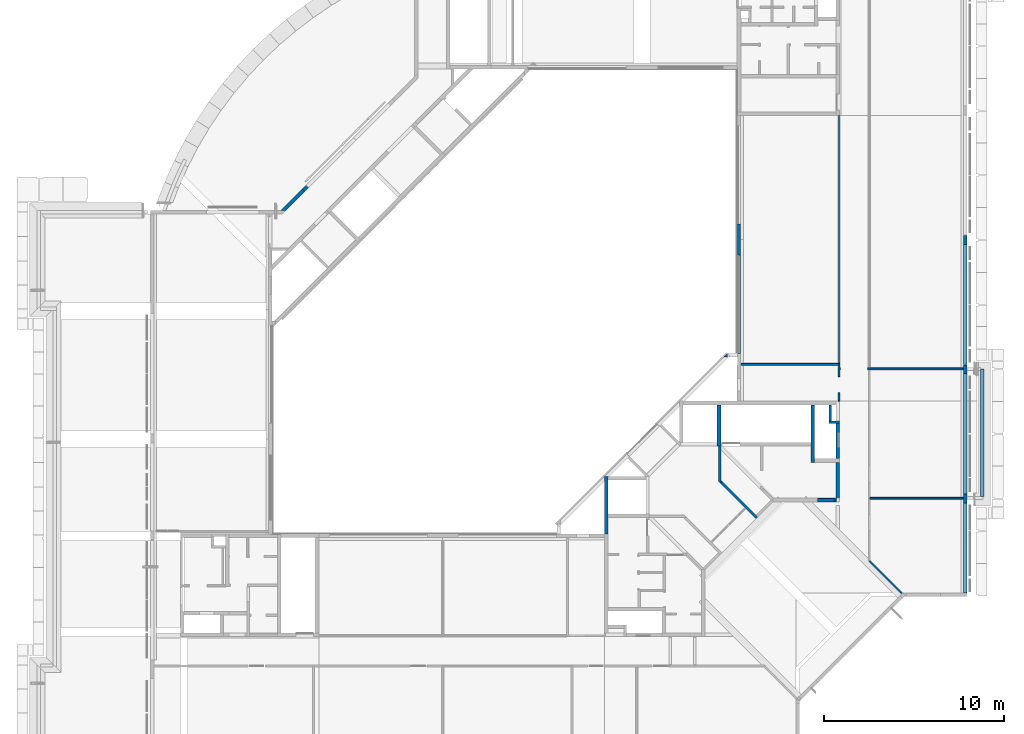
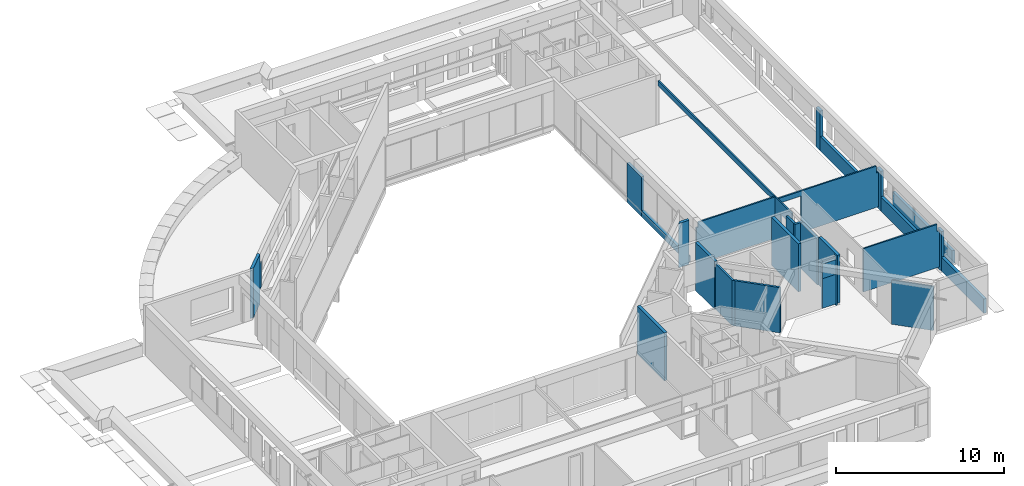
# One storey, part 13 of 38: 30 walls.
"""IFC4X3_ADD2 building model written with IfcOpenShell, lengths in millimetres."""

from ifc_helpers import new_model, si_unit, direction, frame, frame_2d, origin_with_axes, origin_2d_with_axis, place, context, subcontext, project, spatial, polyline, rectangle, outline, extrude, source, transform, mapped, material, type_object, type_shapes, element, save


model = new_model("IFC4X3_ADD2")

# Units and contexts
model_context = context("Model", 3, precision=1e-05, world=origin_with_axes(), true_north=direction((0.0, 1.0)))
body_context = subcontext(model_context, "Body", "Model", "MODEL_VIEW")
ifc_project = project(units=[si_unit("LENGTHUNIT", "METRE", prefix="MILLI"), si_unit("AREAUNIT", "SQUARE_METRE"), si_unit("VOLUMEUNIT", "CUBIC_METRE"), si_unit("PLANEANGLEUNIT", "RADIAN"), si_unit("TIMEUNIT", "SECOND"), si_unit("MASSUNIT", "GRAM")], contexts=[model_context])

# Site, building, storey
site_placement = place(None, origin_with_axes())
site = spatial("IfcSite", under=ifc_project, at=site_placement, Name="Site", CompositionType="ELEMENT")
building_placement = place(site_placement, origin_with_axes())
building = spatial("IfcBuilding", under=site, at=building_placement, Name="IFC Building Story")
storey_placement = place(building_placement, frame((0.0, 0.0, 10800.0), z_axis=(0.0, 0.0, 1.0), x_axis=(1.0, 0.0, 0.0)))
storey = spatial("IfcBuildingStorey", under=building, at=storey_placement, Name="030", Elevation=10800.0)

# Walls
ifc_material_1 = material(Name="BB_Beton_Bestaand")
wall_type_1 = type_object("IfcWallType", Name="BB_Beton_Bestaand 200", PredefinedType="NOTDEFINED", material=ifc_material_1)
wall_1_placement = place(storey_placement, origin_with_axes())
element("IfcWall", 1, at=wall_1_placement, inside=storey, type_object=wall_type_1, Name="Basic Wall:BB_XX_Wand uit beton, 200 mm", ObjectType="Basic Wall:BB_XX_Wand uit beton, 200 mm", PredefinedType="SOLIDWALL", context=body_context, shape_type="SweptSolid", body=[
    extrude(rectangle(XDim=3199.999999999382, YDim=200.0, at=frame_2d((0.0, 0.0), x_axis=(0.0, 1.0))), frame((-8500.0, 18300.00000000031, -80.0), z_axis=(0.0, 0.0, 1.0), x_axis=(1.0, 0.0, 0.0)), (0.0, 0.0, 1.0), 3480.0),
])
wall_2_placement = place(storey_placement, origin_with_axes())
element("IfcWall", 2, at=wall_2_placement, inside=storey, type_object=wall_type_1, Name="Basic Wall:BB_XX_Wand uit beton, 200 mm", ObjectType="Basic Wall:BB_XX_Wand uit beton, 200 mm", PredefinedType="SOLIDWALL", context=body_context, shape_type="SweptSolid", body=[
    extrude(rectangle(XDim=2199.999999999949, YDim=200.0, at=frame_2d((0.0, 0.0), x_axis=(0.0, 1.0))), frame((-7100.0, 15600.00000000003, -80.0), z_axis=(0.0, 0.0, 1.0), x_axis=(1.0, 0.0, 0.0)), (0.0, 0.0, 1.0), 3480.0),
])
wall_3_placement = place(storey_placement, origin_with_axes())
element("IfcWall", 3, at=wall_3_placement, inside=storey, type_object=wall_type_1, Name="Basic Wall:BB_XX_Wand uit beton, 200 mm", ObjectType="Basic Wall:BB_XX_Wand uit beton, 200 mm", PredefinedType="SOLIDWALL", context=body_context, shape_type="SweptSolid", body=[
    extrude(rectangle(XDim=2299.999999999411, YDim=199.9999999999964, at=frame_2d((0.0, 0.0), x_axis=(0.0, 1.0))), frame((-13715.0, 18749.99999999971, -80.0), z_axis=(0.0, 0.0, 1.0), x_axis=(1.0, 0.0, 0.0)), (0.0, 0.0, 1.0), 3480.0),
])
wall_4_placement = place(storey_placement, origin_with_axes())
element("IfcWall", 4, at=wall_4_placement, inside=storey, type_object=wall_type_1, Name="Basic Wall:BB_XX_Wand uit beton, 200 mm", ObjectType="Basic Wall:BB_XX_Wand uit beton, 200 mm", PredefinedType="SOLIDWALL", context=body_context, shape_type="SweptSolid", body=[
    extrude(rectangle(XDim=3214.995934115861, YDim=199.9999999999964, at=frame_2d((0.0, 0.0), x_axis=(0.0, 1.0))), frame((-20000.0, 14307.50203294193, -80.0), z_axis=(0.0, 0.0, 1.0), x_axis=(1.0, 0.0, 0.0)), (0.0, 0.0, 1.0), 3480.0),
])
wall_type_2 = type_object("IfcWallType", Name="BB_Beton_Bestaand 190", PredefinedType="NOTDEFINED", material=ifc_material_1)
wall_5_placement = place(storey_placement, origin_with_axes())
element("IfcWall", 5, at=wall_5_placement, inside=storey, type_object=wall_type_2, Name="Basic Wall:BB_XX_Wand uit beton, 190 mm", ObjectType="Basic Wall:BB_XX_Wand uit beton, 190 mm", PredefinedType="SOLIDWALL", context=body_context, shape_type="SweptSolid", body=[
    extrude(outline(polyline([(628.0961415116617, 493.7458530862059), (-426.5707088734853, -560.9209972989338), (-695.271285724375, -560.9209972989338), (493.7458530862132, 628.0961415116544), (628.0961415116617, 493.7458530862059)])), frame((-37414.07900269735, 31285.92099729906, -200.0), z_axis=(0.0, 0.0, 1.0), x_axis=(1.0, 0.0, 0.0)), (0.0, 0.0, 1.0), 3600.0),
])
wall_6_placement = place(storey_placement, origin_with_axes())
element("IfcWall", 6, at=wall_6_placement, inside=storey, type_object=wall_type_2, Name="Basic Wall:BB_XX_Wand uit beton, 190 mm", ObjectType="Basic Wall:BB_XX_Wand uit beton, 190 mm", PredefinedType="SOLIDWALL", context=body_context, shape_type="SweptSolid", body=[
    extrude(rectangle(XDim=489.9999999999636, YDim=190.0, at=frame_2d((0.0, 0.0), x_axis=(0.0, 1.0))), frame((0.0, 29080.00000000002, -200.0), z_axis=(0.0, 0.0, 1.0), x_axis=(1.0, 0.0, 0.0)), (0.0, 0.0, 1.0), 2880.0),
])
wall_7_placement = place(storey_placement, origin_with_axes())
element("IfcWall", 7, at=wall_7_placement, inside=storey, type_object=wall_type_2, Name="Basic Wall:BB_XX_Wand uit beton, 190 mm", ObjectType="Basic Wall:BB_XX_Wand uit beton, 190 mm", PredefinedType="SOLIDWALL", context=body_context, shape_type="SweptSolid", body=[
    extrude(rectangle(XDim=489.9999999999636, YDim=190.0, at=frame_2d((0.0, 0.0), x_axis=(0.0, 1.0))), frame((0.0, 21880.00000000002, -200.0), z_axis=(0.0, 0.0, 1.0), x_axis=(1.0, 0.0, 0.0)), (0.0, 0.0, 1.0), 2879.99999999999),
])
wall_8_placement = place(storey_placement, origin_with_axes())
element("IfcWall", 8, at=wall_8_placement, inside=storey, type_object=wall_type_2, Name="Basic Wall:BB_XX_Wand uit beton, 190 mm", ObjectType="Basic Wall:BB_XX_Wand uit beton, 190 mm", PredefinedType="SOLIDWALL", context=body_context, shape_type="SweptSolid", body=[
    extrude(rectangle(XDim=489.9999999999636, YDim=190.0, at=frame_2d((0.0, 0.0), x_axis=(0.0, 1.0))), frame((0.0, 14680.00000000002, -200.0), z_axis=(0.0, 0.0, 1.0), x_axis=(1.0, 0.0, 0.0)), (0.0, 0.0, 1.0), 2879.99999999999),
])
wall_9_placement = place(storey_placement, origin_with_axes())
element("IfcWall", 9, at=wall_9_placement, inside=storey, type_object=wall_type_2, Name="Basic Wall:BB_XX_Wand uit beton, 190 mm", ObjectType="Basic Wall:BB_XX_Wand uit beton, 190 mm", PredefinedType="SOLIDWALL", context=body_context, shape_type="SweptSolid", body=[
    extrude(rectangle(XDim=6709.999999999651, YDim=190.0, at=frame_2d((0.0, 0.0), x_axis=(0.0, 1.0))), frame((0.0, 25500.00000000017, -200.0), z_axis=(0.0, 0.0, 1.0), x_axis=(1.0, 0.0, 0.0)), (0.0, 0.0, 1.0), 1040.0),
])
wall_10_placement = place(storey_placement, origin_with_axes())
element("IfcWall", 10, at=wall_10_placement, inside=storey, type_object=wall_type_2, Name="Basic Wall:BB_XX_Wand uit beton, 190 mm", ObjectType="Basic Wall:BB_XX_Wand uit beton, 190 mm", PredefinedType="SOLIDWALL", context=body_context, shape_type="SweptSolid", body=[
    extrude(rectangle(XDim=6709.999999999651, YDim=190.0, at=frame_2d((0.0, 0.0), x_axis=(0.0, 1.0))), frame((0.0, 18300.00000000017, -200.0), z_axis=(0.0, 0.0, 1.0), x_axis=(1.0, 0.0, 0.0)), (0.0, 0.0, 1.0), 1040.0),
])
wall_11_placement = place(storey_placement, origin_with_axes())
element("IfcWall", 11, at=wall_11_placement, inside=storey, type_object=wall_type_2, Name="Basic Wall:BB_XX_Wand uit beton, 190 mm", ObjectType="Basic Wall:BB_XX_Wand uit beton, 190 mm", PredefinedType="SOLIDWALL", context=body_context, shape_type="SweptSolid", body=[
    extrude(rectangle(XDim=5040.000000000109, YDim=190.0, at=frame_2d((0.0, 0.0), x_axis=(0.0, 1.0))), frame((0.0, 11934.99999999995, -200.0), z_axis=(0.0, 0.0, 1.0), x_axis=(1.0, 0.0, 0.0)), (0.0, 0.0, 1.0), 1040.0),
])
wall_12_placement = place(storey_placement, origin_with_axes())
element("IfcWall", 12, at=wall_12_placement, inside=storey, type_object=wall_type_2, Name="Basic Wall:BB_XX_Wand uit beton, 190 mm", ObjectType="Basic Wall:BB_XX_Wand uit beton, 190 mm", PredefinedType="SOLIDWALL", context=body_context, shape_type="SweptSolid", body=[
    extrude(rectangle(XDim=1709.999999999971, YDim=190.0, at=frame_2d((0.0, 0.0), x_axis=(0.0, 1.0))), frame((-12600.0040658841, 29100.00000000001, -200.0), z_axis=(0.0, 0.0, 1.0), x_axis=(1.0, 0.0, 0.0)), (0.0, 0.0, 1.0), 2880.0),
])
wall_13_placement = place(storey_placement, origin_with_axes())
element("IfcWall", 13, at=wall_13_placement, inside=storey, type_object=wall_type_2, Name="Basic Wall:BB_XX_Wand uit beton, 190 mm", ObjectType="Basic Wall:BB_XX_Wand uit beton, 190 mm", PredefinedType="SOLIDWALL", context=body_context, shape_type="SweptSolid", body=[
    extrude(rectangle(XDim=7095.000000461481, YDim=190.0, at=frame_2d((0.0, 0.0), x_axis=(0.0, 1.0))), frame((935.0, 18342.49999976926, -200.0), z_axis=(0.0, 0.0, 1.0), x_axis=(1.0, 0.0, 0.0)), (0.0, 0.0, 1.0), 940.000000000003),
])
wall_14_placement = place(storey_placement, origin_with_axes())
element("IfcWall", 14, at=wall_14_placement, inside=storey, type_object=wall_type_2, Name="Basic Wall:BB_XX_Wand uit beton, 190 mm", ObjectType="Basic Wall:BB_XX_Wand uit beton, 190 mm", PredefinedType="SOLIDWALL", context=body_context, shape_type="SweptSolid", body=[
    extrude(rectangle(XDim=5490.000000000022, YDim=190.0, at=frame_2d((0.0, 0.0), x_axis=(0.0, 1.0))), frame((-12600.0040658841, 25500.00000000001, -200.0), z_axis=(0.0, 0.0, 1.0), x_axis=(1.0, 0.0, 0.0)), (0.0, 0.0, 1.0), 450.000000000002),
])
ifc_material_2 = material(Name="BB_Metselwerk_Bestaand")
wall_type_3 = type_object("IfcWallType", Name="BB_Metselwerk_Bestaand 140", PredefinedType="NOTDEFINED", material=ifc_material_2)
wall_15_placement = place(storey_placement, origin_with_axes())
element("IfcWall", 15, at=wall_15_placement, inside=storey, type_object=wall_type_3, Name="Basic Wall:BB_XX_Wand uit metselwerk, 140 mm", ObjectType="Basic Wall:BB_XX_Wand uit metselwerk, 140 mm", PredefinedType="SOLIDWALL", context=body_context, shape_type="SweptSolid", body=[
    extrude(rectangle(XDim=589.9999999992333, YDim=140.0, at=origin_2d_with_axis()), frame((-7294.999999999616, 18930.0, -200.0), z_axis=(0.0, 0.0, 1.0), x_axis=(1.0, 0.0, 0.0)), (0.0, 0.0, 1.0), 3340.0),
])
wall_16_placement = place(storey_placement, origin_with_axes())
element("IfcWall", 16, at=wall_16_placement, inside=storey, type_object=wall_type_3, Name="Basic Wall:BB_XX_Wand uit metselwerk, 140 mm", ObjectType="Basic Wall:BB_XX_Wand uit metselwerk, 140 mm", PredefinedType="SOLIDWALL", context=body_context, shape_type="SweptSolid", body=[
    extrude(rectangle(XDim=899.9999999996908, YDim=140.0, at=frame_2d((0.0, 0.0), x_axis=(0.0, 1.0))), frame((-7520.0, 19449.99999999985, -200.0), z_axis=(0.0, 0.0, 1.0), x_axis=(1.0, 0.0, 0.0)), (0.0, 0.0, 1.0), 3340.0),
])
wall_type_4 = type_object("IfcWallType", Name="BB_Metselwerk_Bestaand 190", PredefinedType="NOTDEFINED", material=ifc_material_2)
wall_17_placement = place(storey_placement, origin_with_axes())
element("IfcWall", 17, at=wall_17_placement, inside=storey, type_object=wall_type_4, Name="Basic Wall:BB_XX_Wand uit metselwerk, 190 mm", ObjectType="Basic Wall:BB_XX_Wand uit metselwerk, 190 mm", PredefinedType="SOLIDWALL", context=body_context, shape_type="SweptSolid", body=[
    extrude(rectangle(XDim=1959.99999999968, YDim=190.0, at=frame_2d((0.0, 0.0), x_axis=(0.0, 1.0))), frame((-7095.0, 17879.99999999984, -200.0), z_axis=(0.0, 0.0, 1.0), x_axis=(1.0, 0.0, 0.0)), (0.0, 0.0, 1.0), 3340.0),
])
ifc_material_3 = material(Name="BB_Metselwerk_Betonsteen")
wall_type_5 = type_object("IfcWallType", Name="BB_Metselwerk_Betonsteen 190", PredefinedType="NOTDEFINED", material=ifc_material_3)
wall_18_placement = place(storey_placement, origin_with_axes())
element("IfcWall", 18, at=wall_18_placement, inside=storey, type_object=wall_type_5, Name="Basic Wall:BB_03.09.24#03_Wand uit metselwerk, 190 mm", ObjectType="Basic Wall:BB_03.09.24#03_Wand uit metselwerk, 190 mm", PredefinedType="SOLIDWALL", context=body_context, shape_type="SweptSolid", body=[
    extrude(rectangle(XDim=305.0000000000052, YDim=190.0000000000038, at=frame_2d((0.0, 0.0), x_axis=(0.7071067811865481, 0.7071067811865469))), frame((-36745.32422126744, 31954.67577872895, 840.0), z_axis=(0.0, 0.0, 1.0), x_axis=(1.0, 0.0, 0.0)), (0.0, 0.0, 1.0), 1840.0),
])
wall_19_placement = place(storey_placement, origin_with_axes())
element("IfcWall", 19, at=wall_19_placement, inside=storey, type_object=wall_type_5, Name="Basic Wall:BB_03.09.24#05_Wand uit metselwerk_EI60, 190 mm", ObjectType="Basic Wall:BB_03.09.24#05_Wand uit metselwerk_EI60, 190 mm", PredefinedType="SOLIDWALL", context=body_context, shape_type="SweptSolid", body=[
    extrude(rectangle(XDim=920.0, YDim=190.0, at=origin_2d_with_axis()), frame((-7760.0, 14595.0, -80.0), z_axis=(0.0, 0.0, 1.0), x_axis=(1.0, 0.0, 0.0)), (0.0, 0.0, 1.0), 2150.0),
])
wall_20_placement = place(storey_placement, origin_with_axes())
element("IfcWall", 20, at=wall_20_placement, inside=storey, type_object=wall_type_5, Name="Basic Wall:BB_03.09.24#03_Wand uit metselwerk, 190 mm", ObjectType="Basic Wall:BB_03.09.24#03_Wand uit metselwerk, 190 mm", PredefinedType="SOLIDWALL", context=body_context, shape_type="SweptSolid", body=[
    extrude(outline(polyline([(-229.8221358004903, 95.0), (324.8221358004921, 95.0), (324.8221358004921, -95.0), (-419.8221358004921, -95.0), (-229.8221358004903, 95.0)])), frame((-13019.82620168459, 22660.0, -200.0), z_axis=(0.0, 0.0, 1.0), x_axis=(1.0, 0.0, 0.0)), (0.0, 0.0, 1.0), 3200.0),
])
wall_type_6 = type_object("IfcWallType", Name="Basic Wall_BB_10.01.41#21_Gipskartonwand_EI60_43dB_MS100 _ 25.50.25_ 100 mm71", PredefinedType="NOTDEFINED")
shared_shape_1 = source(origin_with_axes(), body_context, "Body", "SweptSolid", [
    extrude(outline(polyline([(3618.33604392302, 1883.333333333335), (3618.33604392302, -1121.666666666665), (-1741.66802196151, -1121.666666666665), (-1741.66802196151, -761.6666666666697), (-1876.66802196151, -761.6666666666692), (-1876.66802196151, 1883.333333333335), (3618.33604392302, 1883.333333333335)])), frame((1876.66802196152, 37.5, 1883.33333333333), z_axis=(0.0, 1.0, 0.0), x_axis=(1.0, 0.0, 0.0)), (0.0, 0.0, 1.0), 12.5),
    extrude(outline(polyline([(-1872.501355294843, 1883.333333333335), (3610.002710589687, 1883.333333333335), (3610.002710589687, -1121.666666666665), (-1737.501355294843, -1121.666666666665), (-1737.501355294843, -761.6666666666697), (-1872.501355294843, -761.6666666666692), (-1872.501355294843, 1883.333333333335)])), frame((1872.501355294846, 25.0, 1883.333333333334), z_axis=(0.0, 1.0, 0.0), x_axis=(1.0, 0.0, 0.0)), (0.0, 0.0, 1.0), 12.5),
    extrude(outline(polyline([(-1865.001355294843, 1883.333333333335), (3605.002710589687, 1883.333333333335), (3605.002710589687, -1121.666666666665), (-1740.001355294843, -1121.666666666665), (-1740.001355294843, -761.6666666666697), (-1865.001355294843, -761.6666666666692), (-1865.001355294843, 1883.333333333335)])), frame((1865.001355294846, -25.0, 1883.333333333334), z_axis=(0.0, 1.0, 0.0), x_axis=(1.0, 0.0, 0.0)), (0.0, 0.0, 1.0), 49.99999999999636),
    extrude(outline(polyline([(-1851.66802196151, 1883.333333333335), (3568.33604392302, 1883.333333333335), (3568.33604392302, -1121.666666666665), (-1716.66802196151, -1121.666666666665), (-1716.66802196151, -761.6666666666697), (-1851.66802196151, -761.6666666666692), (-1851.66802196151, 1883.333333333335)])), frame((1851.668021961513, -37.5, 1883.333333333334), z_axis=(0.0, 1.0, 0.0), x_axis=(1.0, 0.0, 0.0)), (0.0, 0.0, 1.0), 12.5),
    extrude(outline(polyline([(-1847.501355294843, 1883.333333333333), (3560.002710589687, 1883.333333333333), (3560.002710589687, -1121.666666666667), (-1712.501355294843, -1121.666666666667), (-1712.501355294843, -761.6666666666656), (-1847.501355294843, -761.6666666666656), (-1847.501355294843, 1883.333333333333)])), frame((1847.501355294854, -50.0, 1883.333333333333), z_axis=(0.0, 1.0, 0.0), x_axis=(1.0, 0.0, 0.0)), (0.0, 0.0, 1.0), 12.49999999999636),
])
type_shapes(wall_type_6, [shared_shape_1])
wall_21_placement = place(storey_placement, frame((-12480.0040658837, 22150.0, -5.0), z_axis=(0.0, 0.0, 1.0), x_axis=(1.0, 0.0, 0.0)))
element("IfcWall", 21, at=wall_21_placement, inside=storey, type_object=wall_type_6, Name="Basic Wall:BB_10.01.41#21_Gipskartonwand_EI60_43dB_MS100 / 25.50.25, 100 mm", ObjectType="Basic Wall:BB_10.01.41#21_Gipskartonwand_EI60_43dB_MS100 / 25.50.25, 100 mm", PredefinedType="PARTITIONING", context=body_context, shape_type="MappedRepresentation", body=[
    mapped(shared_shape_1, transform((0.0, 0.0, 0.0))),
])
wall_type_7 = type_object("IfcWallType", Name="Basic Wall_BB_10.01.41#21_Gipskartonwand_EI60_43dB_MS100 _ 25.50.25_ 100 mm73", PredefinedType="NOTDEFINED")
shared_shape_2 = source(origin_with_axes(), body_context, "Body", "SweptSolid", [
    extrude(outline(polyline([(506.8749999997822, -872.500000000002), (506.8749999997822, 1292.500000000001), (981.8750000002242, 1292.500000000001), (981.8750000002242, -1712.499999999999), (-1105.624999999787, -1712.499999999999), (-1105.624999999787, 1292.500000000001), (-383.1250000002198, 1292.500000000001), (-383.1250000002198, -872.500000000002), (506.8749999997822, -872.500000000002)])), frame((1018.124999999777, 37.4999999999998, 1292.500000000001), z_axis=(0.0, 1.0, 0.0), x_axis=(1.0, 0.0, 0.0)), (0.0, 0.0, 1.0), 12.4999999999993),
    extrude(outline(polyline([(503.7499999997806, -872.500000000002), (503.7499999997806, 1292.500000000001), (978.7500000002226, 1292.500000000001), (978.7500000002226, -1712.499999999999), (-1096.249999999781, -1712.499999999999), (-1096.249999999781, 1292.500000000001), (-386.2500000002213, 1292.500000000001), (-386.2500000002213, -872.500000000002), (503.7499999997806, -872.500000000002)])), frame((1021.249999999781, 25.0, 1292.500000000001), z_axis=(0.0, 1.0, 0.0), x_axis=(1.0, 0.0, 0.0)), (0.0, 0.0, 1.0), 12.5000000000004),
    extrude(outline(polyline([(491.2499999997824, -872.500000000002), (491.2499999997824, 1292.500000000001), (966.2500000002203, 1292.500000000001), (966.2500000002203, -1712.499999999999), (-1058.749999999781, -1712.499999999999), (-1058.749999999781, 1292.500000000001), (-398.7500000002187, 1292.500000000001), (-398.7500000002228, -872.500000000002), (491.2499999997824, -872.500000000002)])), frame((1033.749999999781, -25.0, 1292.500000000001), z_axis=(0.0, 1.0, 0.0), x_axis=(1.0, 0.0, 0.0)), (0.0, 0.0, 1.0), 49.9999999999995),
    extrude(outline(polyline([(488.124999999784, -872.500000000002), (488.124999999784, 1292.500000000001), (963.125000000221, 1292.500000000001), (963.125000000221, -1712.499999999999), (-1049.374999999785, -1712.499999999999), (-1049.374999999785, 1292.500000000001), (-401.8750000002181, 1292.500000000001), (-401.8750000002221, -872.500000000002), (488.124999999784, -872.500000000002)])), frame((1036.874999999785, -37.5000000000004, 1292.500000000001), z_axis=(0.0, 1.0, 0.0), x_axis=(1.0, 0.0, 0.0)), (0.0, 0.0, 1.0), 12.5000000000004),
    extrude(outline(polyline([(960.0000000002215, 1292.500000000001), (960.0000000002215, -1712.499999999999), (-1039.999999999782, -1712.499999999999), (-1039.999999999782, 1292.500000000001), (-405.0000000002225, 1292.5), (-405.0000000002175, -872.500000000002), (484.9999999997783, -872.500000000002), (484.9999999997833, 1292.500000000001), (960.0000000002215, 1292.500000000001)])), frame((1040.000000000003, -50.0, 1292.500000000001), z_axis=(0.0, 1.0, 0.0), x_axis=(1.0, 0.0, 0.0)), (0.0, 0.0, 1.0), 12.5000000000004),
])
type_shapes(wall_type_7, [shared_shape_2])
wall_22_placement = place(storey_placement, frame((-7035.0, 22100.0, -5.0), z_axis=(0.0, 0.0, 1.0), x_axis=(0.0, -1.0, 0.0)))
element("IfcWall", 22, at=wall_22_placement, inside=storey, type_object=wall_type_7, Name="Basic Wall:BB_10.01.41#21_Gipskartonwand_EI60_43dB_MS100 / 25.50.25, 100 mm", ObjectType="Basic Wall:BB_10.01.41#21_Gipskartonwand_EI60_43dB_MS100 / 25.50.25, 100 mm", PredefinedType="PARTITIONING", context=body_context, shape_type="MappedRepresentation", body=[
    mapped(shared_shape_2, transform((0.0, 0.0, 0.0))),
])
wall_type_8 = type_object("IfcWallType", Name="Basic Wall_BB_10.01.41#03_Gipskartonwand_43dB_MS100 _ 25.50.25_ 100 mm65", PredefinedType="NOTDEFINED")
shared_shape_3 = source(origin_with_axes(), body_context, "Body", "SweptSolid", [
    extrude(outline(polyline([(-1287.52516024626, 6.250000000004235), (1281.27516024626, 6.249999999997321), (1293.77516024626, -6.250000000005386), (-1287.52516024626, -6.249999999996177), (-1287.52516024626, 6.250000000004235)])), frame((1287.52516024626, 43.75000000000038, 0.0), z_axis=(0.0, 0.0, 1.0), x_axis=(1.0, 0.0, 0.0)), (0.0, 0.0, 1.0), 3200.0),
    extrude(outline(polyline([(-1284.93632548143, -6.250000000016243), (-1284.93632548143, 6.249999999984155), (1278.68632548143, 6.250000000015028), (1291.18632548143, -6.249999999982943), (-1284.93632548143, -6.250000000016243)])), frame((1284.93632548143, 31.24999999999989, 0.0), z_axis=(0.0, 0.0, 1.0), x_axis=(1.0, 0.0, 0.0)), (0.0, 0.0, 1.0), 3200.0),
    extrude(outline(polyline([(-1265.205986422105, -25.0000000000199), (-1265.205986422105, 24.9999999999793), (1240.205986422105, 25.0000000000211), (1290.205986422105, -24.9999999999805), (-1265.205986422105, -25.0000000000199)])), frame((1265.205986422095, 0.0, 0.0), z_axis=(0.0, 0.0, 1.0), x_axis=(1.0, 0.0, 0.0)), (0.0, 0.0, 1.0), 3200.0),
    extrude(outline(polyline([(-1271.99215165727, -6.249999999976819), (-1271.99215165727, 6.250000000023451), (1265.74215165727, 6.249999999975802), (1278.24215165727, -6.250000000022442), (-1271.99215165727, -6.249999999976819)])), frame((1271.99215165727, -31.25000000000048, 0.0), z_axis=(0.0, 0.0, 1.0), x_axis=(1.0, 0.0, 0.0)), (0.0, 0.0, 1.0), 3200.0),
    extrude(outline(polyline([(1275.653316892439, -6.250000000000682), (-1269.40331689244, -6.249999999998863), (-1269.40331689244, 6.25), (1263.153316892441, 6.249999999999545), (1275.653316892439, -6.250000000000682)])), frame((1269.40331689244, -43.74999999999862, 0.0), z_axis=(0.0, 0.0, 1.0), x_axis=(1.0, 0.0, 0.0)), (0.0, 0.0, 1.0), 3200.0),
])
type_shapes(wall_type_8, [shared_shape_3])
wall_23_placement = place(storey_placement, frame((-3535.72853480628, 9397.32233046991, -200.0), z_axis=(0.0, 0.0, 1.0), x_axis=(-0.7071067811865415, 0.7071067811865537, 0.0)))
element("IfcWall", 23, at=wall_23_placement, inside=storey, type_object=wall_type_8, Name="Basic Wall:BB_10.01.41#03_Gipskartonwand_43dB_MS100 / 25.50.25, 100 mm", ObjectType="Basic Wall:BB_10.01.41#03_Gipskartonwand_43dB_MS100 / 25.50.25, 100 mm", PredefinedType="PARTITIONING", context=body_context, shape_type="MappedRepresentation", body=[
    mapped(shared_shape_3, transform((0.0, 0.0, 0.0))),
])
wall_type_9 = type_object("IfcWallType", Name="Basic Wall_BB_10.01.41#03_Gipskartonwand_43dB_MS100 _ 25.50.25_ 100 mm77", PredefinedType="NOTDEFINED")
shared_shape_4 = source(origin_with_axes(), body_context, "Body", "SweptSolid", [
    extrude(outline(polyline([(-1480.999999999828, -1014.0), (-1480.999999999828, 1626.0), (3833.999999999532, 1626.0), (3833.999999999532, -864.0), (3678.999999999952, -864.0), (3678.999999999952, -1374.0), (-3030.999999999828, -1374.0), (-3030.999999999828, 1626.0), (-3000.999999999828, 1626.0), (-3000.999999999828, -1014.0), (-1480.999999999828, -1014.0)])), frame((3030.999999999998, 37.5, 1626.0), z_axis=(0.0, 1.0, 0.0), x_axis=(1.0, 0.0, 0.0)), (0.0, 0.0, 1.0), 12.49999999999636),
    extrude(outline(polyline([(-1478.49999999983, -1014.0), (-1478.49999999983, 1626.0), (3836.499999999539, 1626.0), (3836.499999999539, -864.0), (3681.49999999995, -864.0), (3681.49999999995, -1374.0), (-3040.99999999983, -1374.0), (-3040.99999999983, 1626.0), (-2998.49999999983, 1626.0), (-2998.49999999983, -1014.0), (-1478.49999999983, -1014.0)])), frame((3028.49999999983, 25.0, 1626.0), z_axis=(0.0, 1.0, 0.0), x_axis=(1.0, 0.0, 0.0)), (0.0, 0.0, 1.0), 12.5),
    extrude(outline(polyline([(-1475.99999999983, -1014.0), (-1475.99999999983, 1626.0), (3838.99999999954, 1626.0), (3838.99999999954, -864.0), (3683.99999999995, -864.0), (3683.99999999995, -1374.0), (-3050.99999999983, -1374.0), (-3050.99999999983, 1626.0), (-2995.99999999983, 1626.0), (-2995.99999999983, -1014.0), (-1475.99999999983, -1014.0)])), frame((3026.0, -25.0, 1626.0), z_axis=(0.0, 1.0, 0.0), x_axis=(1.0, 0.0, 0.0)), (0.0, 0.0, 1.0), 49.99999999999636),
    extrude(outline(polyline([(-1480.999999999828, -1014.0), (-1480.999999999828, 1626.0), (3833.999999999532, 1626.0), (3833.999999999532, -864.0), (3678.999999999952, -864.0), (3678.999999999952, -1374.0), (-3030.999999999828, -1374.0), (-3030.999999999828, 1626.0), (-3000.999999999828, 1626.0), (-3000.999999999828, -1014.0), (-1480.999999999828, -1014.0)])), frame((3031.0, -37.5, 1626.0), z_axis=(0.0, 1.0, 0.0), x_axis=(1.0, 0.0, 0.0)), (0.0, 0.0, 1.0), 12.5),
    extrude(outline(polyline([(3833.999999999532, 1626.0), (3833.999999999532, -864.0), (3678.999999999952, -864.0), (3678.999999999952, -1374.0), (-3030.999999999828, -1374.0), (-3030.999999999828, 1626.0), (-3000.999999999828, 1626.0), (-3000.999999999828, -1014.0), (-1480.999999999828, -1014.0), (-1480.999999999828, 1626.0), (3833.999999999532, 1626.0)])), frame((3030.999999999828, -50.0, 1626.0), z_axis=(0.0, 1.0, 0.0), x_axis=(1.0, 0.0, 0.0)), (0.0, 0.0, 1.0), 12.5),
])
type_shapes(wall_type_9, [shared_shape_4])
wall_24_placement = place(storey_placement, frame((-6985.0, 21900.0, 0.0), z_axis=(0.0, 0.0, 1.0), x_axis=(1.0, 0.0, 0.0)))
element("IfcWall", 24, at=wall_24_placement, inside=storey, type_object=wall_type_9, Name="Basic Wall:BB_10.01.41#03_Gipskartonwand_43dB_MS100 / 25.50.25, 100 mm", ObjectType="Basic Wall:BB_10.01.41#03_Gipskartonwand_43dB_MS100 / 25.50.25, 100 mm", PredefinedType="PARTITIONING", context=body_context, shape_type="MappedRepresentation", body=[
    mapped(shared_shape_4, transform((0.0, 0.0, 0.0))),
])
wall_type_10 = type_object("IfcWallType", Name="Basic Wall_BB_10.01.41#03_Gipskartonwand_43dB_MS100 _ 25.50.25_ 100 mm81", PredefinedType="NOTDEFINED")
shared_shape_5 = source(origin_with_axes(), body_context, "Body", "SweptSolid", [
    extrude(outline(polyline([(-3401.66666666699, 1923.333333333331), (1778.33333333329, 1923.333333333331), (1778.33333333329, -706.6666666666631), (1623.3333333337, -706.6666666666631), (1623.3333333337, -1216.666666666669), (-3401.66666666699, -1216.666666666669), (-3401.66666666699, 1923.333333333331)])), frame((3401.66666666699, 37.49999999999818, 1923.333333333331), z_axis=(0.0, 1.0, 0.0), x_axis=(1.0, 0.0, 0.0)), (0.0, 0.0, 1.0), 12.5),
    extrude(outline(polyline([(-3401.66666666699, 1923.333333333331), (1778.33333333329, 1923.333333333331), (1778.33333333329, -706.6666666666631), (1623.3333333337, -706.6666666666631), (1623.3333333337, -1216.666666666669), (-3401.66666666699, -1216.666666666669), (-3401.66666666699, 1923.333333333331)])), frame((3401.66666666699, 25.0, 1923.333333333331), z_axis=(0.0, 1.0, 0.0), x_axis=(1.0, 0.0, 0.0)), (0.0, 0.0, 1.0), 12.5),
    extrude(outline(polyline([(-3418.333333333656, 1923.333333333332), (1786.666666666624, 1923.333333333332), (1786.666666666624, -706.6666666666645), (1631.666666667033, -706.6666666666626), (1631.666666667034, -1216.666666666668), (-3418.333333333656, -1216.666666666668), (-3418.333333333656, 1923.333333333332)])), frame((3393.333333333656, -25.0, 1923.333333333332), z_axis=(0.0, 1.0, 0.0), x_axis=(1.0, 0.0, 0.0)), (0.0, 0.0, 1.0), 50.00000000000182),
    extrude(outline(polyline([(-3410.000000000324, 1923.333333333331), (1782.499999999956, 1923.333333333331), (1782.499999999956, -706.6666666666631), (1627.500000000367, -706.6666666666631), (1627.500000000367, -1216.666666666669), (-3410.000000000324, -1216.666666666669), (-3410.000000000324, 1923.333333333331)])), frame((3397.500000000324, -37.50000000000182, 1923.333333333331), z_axis=(0.0, 1.0, 0.0), x_axis=(1.0, 0.0, 0.0)), (0.0, 0.0, 1.0), 12.5),
    extrude(outline(polyline([(-3401.66666666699, 1923.333333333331), (1778.33333333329, 1923.333333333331), (1778.33333333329, -706.6666666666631), (1623.3333333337, -706.6666666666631), (1623.3333333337, -1216.666666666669), (-3401.66666666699, -1216.666666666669), (-3401.66666666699, 1923.333333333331)])), frame((3401.66666666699, -50.0, 1923.333333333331), z_axis=(0.0, 1.0, 0.0), x_axis=(1.0, 0.0, 0.0)), (0.0, 0.0, 1.0), 12.5),
])
type_shapes(wall_type_10, [shared_shape_5])
wall_25_placement = place(storey_placement, frame((-5300.0, 14700.0, 0.0), z_axis=(0.0, 0.0, 1.0), x_axis=(1.0, 0.0, 0.0)))
element("IfcWall", 25, at=wall_25_placement, inside=storey, type_object=wall_type_10, Name="Basic Wall:BB_10.01.41#03_Gipskartonwand_43dB_MS100 / 25.50.25, 100 mm", ObjectType="Basic Wall:BB_10.01.41#03_Gipskartonwand_43dB_MS100 / 25.50.25, 100 mm", PredefinedType="PARTITIONING", context=body_context, shape_type="MappedRepresentation", body=[
    mapped(shared_shape_5, transform((0.0, 0.0, 0.0))),
])
wall_type_11 = type_object("IfcWallType", Name="Basic Wall_BB_10.01.41#21_Gipskartonwand_EI60_43dB_MS100 _ 25.50.25_ 100 mm83", PredefinedType="NOTDEFINED")
shared_shape_6 = source(origin_with_axes(), body_context, "Body", "SweptSolid", [
    extrude(rectangle(XDim=13800.00000000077, YDim=12.49999999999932, at=origin_2d_with_axis()), frame((6900.0, 43.7499999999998, 0.0), z_axis=(0.0, 0.0, 1.0), x_axis=(1.0, 0.0, 0.0)), (0.0, 0.0, 1.0), 360.0),
    extrude(rectangle(XDim=13800.00000000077, YDim=12.5000000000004, at=origin_2d_with_axis()), frame((6899.999999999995, 31.2500000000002, 0.0), z_axis=(0.0, 0.0, 1.0), x_axis=(1.0, 0.0, 0.0)), (0.0, 0.0, 1.0), 360.0),
    extrude(rectangle(XDim=13800.00000000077, YDim=49.9999999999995, at=origin_2d_with_axis()), frame((6900.0, 0.0, 0.0), z_axis=(0.0, 0.0, 1.0), x_axis=(1.0, 0.0, 0.0)), (0.0, 0.0, 1.0), 360.0),
    extrude(rectangle(XDim=13800.00000000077, YDim=12.5000000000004, at=origin_2d_with_axis()), frame((6900.000000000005, -31.2499999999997, 0.0), z_axis=(0.0, 0.0, 1.0), x_axis=(1.0, 0.0, 0.0)), (0.0, 0.0, 1.0), 360.0),
    extrude(rectangle(XDim=13800.00000000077, YDim=12.50000000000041, at=origin_2d_with_axis()), frame((6900.0, -43.75000000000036, 0.0), z_axis=(0.0, 0.0, 1.0), x_axis=(1.0, 0.0, 0.0)), (0.0, 0.0, 1.0), 360.0),
])
type_shapes(wall_type_11, [shared_shape_6])
wall_26_placement = place(storey_placement, frame((-7035.0, 36000.0, 2640.0), z_axis=(0.0, 0.0, 1.0), x_axis=(0.0, -1.0, 0.0)))
element("IfcWall", 26, at=wall_26_placement, inside=storey, type_object=wall_type_11, Name="Basic Wall:BB_10.01.41#21_Gipskartonwand_EI60_43dB_MS100 / 25.50.25, 100 mm", ObjectType="Basic Wall:BB_10.01.41#21_Gipskartonwand_EI60_43dB_MS100 / 25.50.25, 100 mm", PredefinedType="PARTITIONING", context=body_context, shape_type="MappedRepresentation", body=[
    mapped(shared_shape_6, transform((0.0, 0.0, 0.0))),
])
wall_type_12 = type_object("IfcWallType", Name="BB_Metselwerk_Bestaand 200", PredefinedType="NOTDEFINED", material=ifc_material_2)
wall_27_placement = place(storey_placement, origin_with_axes())
element("IfcWall", 27, at=wall_27_placement, inside=storey, type_object=wall_type_12, Name="Basic Wall:BB_XX_Wand uit metselwerk, 200 mm", ObjectType="Basic Wall:BB_XX_Wand uit metselwerk, 200 mm", PredefinedType="SOLIDWALL", context=body_context, shape_type="SweptSolid", body=[
    extrude(rectangle(XDim=909.9999999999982, YDim=199.9999999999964, at=origin_2d_with_axis()), frame((-7754.999999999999, 14600.0, 2070.0), z_axis=(0.0, 0.0, 1.0), x_axis=(1.0, 0.0, 0.0)), (0.0, 0.0, 1.0), 1067.0),
])
wall_type_13 = type_object("IfcWallType", Name="BB_Metselwerk_Betonsteen 140", PredefinedType="NOTDEFINED", material=ifc_material_3)
wall_28_placement = place(storey_placement, origin_with_axes())
element("IfcWall", 28, at=wall_28_placement, inside=storey, type_object=wall_type_13, Name="Basic Wall:BB_03.09.24#02_Wand uit metselwerk_EI60_43dB, 140 mm", ObjectType="Basic Wall:BB_03.09.24#02_Wand uit metselwerk_EI60_43dB, 140 mm", PredefinedType="SOLIDWALL", context=body_context, shape_type="SweptSolid", body=[
    extrude(outline(polyline([(-70.0, -939.9769132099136), (-70.00000000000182, 1009.976913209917), (70.0, 1009.976913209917), (70.0, -1079.976913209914), (-70.0, -939.9769132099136)])), frame((-13685.0, 16590.02308679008, -80.0), z_axis=(0.0, 0.0, 1.0), x_axis=(1.0, 0.0, 0.0)), (0.0, 0.0, 1.0), 3280.0),
])
wall_29_placement = place(storey_placement, origin_with_axes())
element("IfcWall", 29, at=wall_29_placement, inside=storey, type_object=wall_type_13, Name="Basic Wall:BB_03.09.24#02_Wand uit metselwerk_EI60_43dB, 140 mm", ObjectType="Basic Wall:BB_03.09.24#02_Wand uit metselwerk_EI60_43dB, 140 mm", PredefinedType="SOLIDWALL", context=body_context, shape_type="SweptSolid", body=[
    extrude(outline(polyline([(952.6101233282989, -1051.605072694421), (-1002.107598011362, 903.1126486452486), (-1002.10759801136, 1101.102547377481), (1051.605072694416, -952.6101233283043), (952.6101233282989, -1051.605072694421)])), frame((-12612.89240198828, 14606.93352493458, -80.0), z_axis=(0.0, 0.0, 1.0), x_axis=(1.0, 0.0, 0.0)), (0.0, 0.0, 1.0), 3280.0),
])
wall_type_14 = type_object("IfcWallType", Name="BB_Beton_Bestaand 100", PredefinedType="NOTDEFINED", material=ifc_material_1)
wall_30_placement = place(storey_placement, origin_with_axes())
element("IfcWall", 30, at=wall_30_placement, inside=storey, type_object=wall_type_14, Name="Basic Wall:BB_XX_Wand uit beton, 200 mm", ObjectType="Basic Wall:BB_XX_Wand uit beton, 200 mm", PredefinedType="SOLIDWALL", context=body_context, shape_type="SweptSolid", body=[
    extrude(rectangle(XDim=199.9999999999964, YDim=99.99999999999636, at=frame_2d((0.0, 0.0), x_axis=(0.0, 1.0))), frame((-7249.999999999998, 14600.0, -200.0), z_axis=(0.0, 0.0, 1.0), x_axis=(1.0, 0.0, 0.0)), (0.0, 0.0, 1.0), 3600.0),
])

save(model, "model.ifc")
